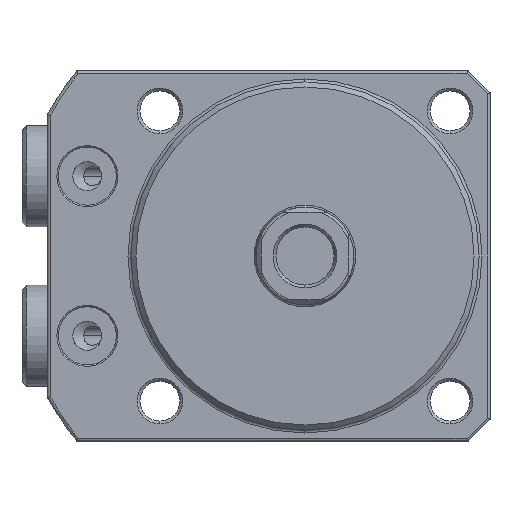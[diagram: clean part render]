
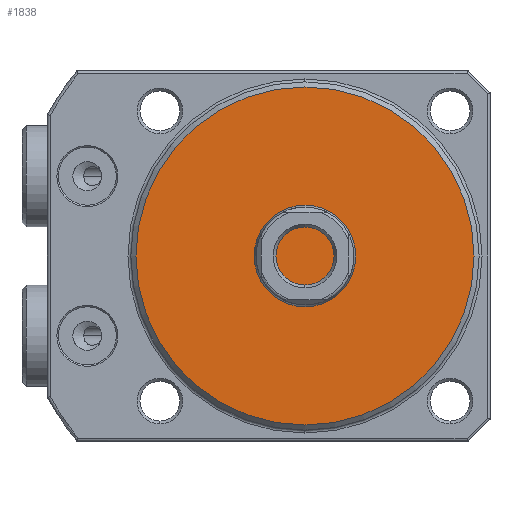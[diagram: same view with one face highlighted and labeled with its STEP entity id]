
A CAD part, front view. The second image highlights one B-rep face of the part: STEP entity #1838.
In plain terms, the highlighted planar face has unit normal (0, -1, 0) as drawn and (-1, 0, 0) by its records, which use the part's own axes.
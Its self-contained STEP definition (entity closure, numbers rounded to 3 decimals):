
#1576=PLANE('',#6984);
#1838=ADVANCED_FACE('',(#2246),#1576,.F.);
#2246=FACE_OUTER_BOUND('',#2573,.T.);
#2573=EDGE_LOOP('',(#3878));
#3878=ORIENTED_EDGE('',*,*,#5838,.T.);
#5273=VERTEX_POINT('',#9663);
#5838=EDGE_CURVE('',#5273,#5273,#6548,.T.);
#6548=CIRCLE('',#6983,23.3);
#6983=AXIS2_PLACEMENT_3D('',#9662,#7939,#7940);
#6984=AXIS2_PLACEMENT_3D('',#9664,#7941,#7942);
#7939=DIRECTION('',(-1.,0.,0.));
#7940=DIRECTION('',(0.,0.,-1.));
#7941=DIRECTION('',(1.,0.,0.));
#7942=DIRECTION('',(0.,0.,1.));
#9662=CARTESIAN_POINT('',(0.,0.,0.));
#9663=CARTESIAN_POINT('',(0.,0.,-23.3));
#9664=CARTESIAN_POINT('',(0.,0.,0.));
